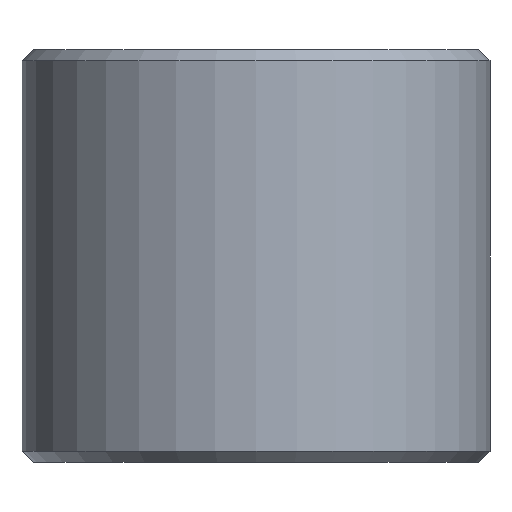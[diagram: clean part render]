
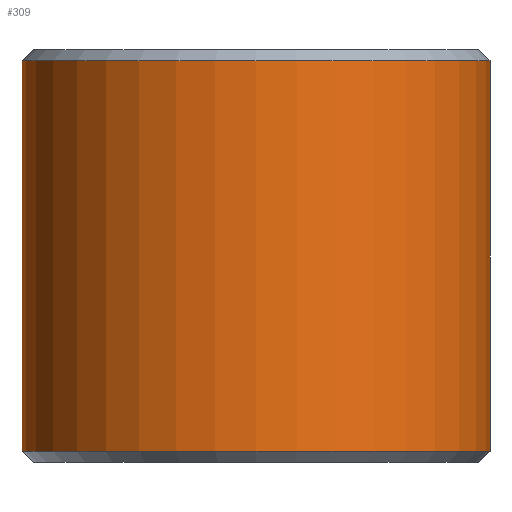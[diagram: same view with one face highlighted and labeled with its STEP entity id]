
A CAD part, front view. The second image highlights one B-rep face of the part: STEP entity #309.
In plain terms, the highlighted cylindrical face has radius 3.747 mm (diameter 7.493 mm), a partial arc.
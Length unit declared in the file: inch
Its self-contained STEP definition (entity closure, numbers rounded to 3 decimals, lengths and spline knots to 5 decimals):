
#31 = DIRECTION ( 'NONE',  ( 0., 0., -1. ) ) ;
#49 = EDGE_CURVE ( 'NONE', #201, #294, #524, .T. ) ;
#62 = DIRECTION ( 'NONE',  ( -1., 0., 0. ) ) ;
#66 = AXIS2_PLACEMENT_3D ( 'NONE', #339, #120, #218 ) ;
#80 = VECTOR ( 'NONE', #246, 39.37008 ) ;
#94 = DIRECTION ( 'NONE',  ( -1., 0., 0. ) ) ;
#101 = CARTESIAN_POINT ( 'NONE',  ( 0., -0.112, -0.123 ) ) ;
#107 = ORIENTED_EDGE ( 'NONE', *, *, #537, .T. ) ;
#120 = DIRECTION ( 'NONE',  ( 0., 0., -1. ) ) ;
#131 = CARTESIAN_POINT ( 'NONE',  ( 0.1475, -0.112, 0.13 ) ) ;
#145 = EDGE_LOOP ( 'NONE', ( #429, #220, #343, #107 ) ) ;
#158 = CARTESIAN_POINT ( 'NONE',  ( -0.1475, -0.112, -0.123 ) ) ;
#161 = CYLINDRICAL_SURFACE ( 'NONE', #193, 0.1475 ) ;
#193 = AXIS2_PLACEMENT_3D ( 'NONE', #263, #459, #94 ) ;
#196 = EDGE_CURVE ( 'NONE', #267, #201, #212, .T. ) ;
#201 = VERTEX_POINT ( 'NONE', #298 ) ;
#212 = CIRCLE ( 'NONE', #66, 0.1475 ) ;
#218 = DIRECTION ( 'NONE',  ( -1., 0., 0. ) ) ;
#220 = ORIENTED_EDGE ( 'NONE', *, *, #196, .T. ) ;
#236 = VERTEX_POINT ( 'NONE', #250 ) ;
#246 = DIRECTION ( 'NONE',  ( 0., 0., -1. ) ) ;
#250 = CARTESIAN_POINT ( 'NONE',  ( 0.1475, -0.112, -0.123 ) ) ;
#263 = CARTESIAN_POINT ( 'NONE',  ( 0., -0.112, 0.13 ) ) ;
#267 = VERTEX_POINT ( 'NONE', #468 ) ;
#273 = DIRECTION ( 'NONE',  ( 0., 0., 1. ) ) ;
#294 = VERTEX_POINT ( 'NONE', #158 ) ;
#296 = FACE_OUTER_BOUND ( 'NONE', #145, .T. ) ;
#298 = CARTESIAN_POINT ( 'NONE',  ( -0.1475, -0.112, 0.123 ) ) ;
#309 = ADVANCED_FACE ( 'NONE', ( #296 ), #161, .T. ) ;
#326 = CARTESIAN_POINT ( 'NONE',  ( -0.1475, -0.112, 0.13 ) ) ;
#339 = CARTESIAN_POINT ( 'NONE',  ( 0., -0.112, 0.123 ) ) ;
#343 = ORIENTED_EDGE ( 'NONE', *, *, #49, .T. ) ;
#349 = AXIS2_PLACEMENT_3D ( 'NONE', #101, #273, #62 ) ;
#363 = EDGE_CURVE ( 'NONE', #267, #236, #376, .T. ) ;
#376 = LINE ( 'NONE', #131, #80 ) ;
#419 = CIRCLE ( 'NONE', #349, 0.1475 ) ;
#429 = ORIENTED_EDGE ( 'NONE', *, *, #363, .F. ) ;
#434 = VECTOR ( 'NONE', #31, 39.37008 ) ;
#459 = DIRECTION ( 'NONE',  ( 0., 0., -1. ) ) ;
#468 = CARTESIAN_POINT ( 'NONE',  ( 0.1475, -0.112, 0.123 ) ) ;
#524 = LINE ( 'NONE', #326, #434 ) ;
#537 = EDGE_CURVE ( 'NONE', #294, #236, #419, .T. ) ;
